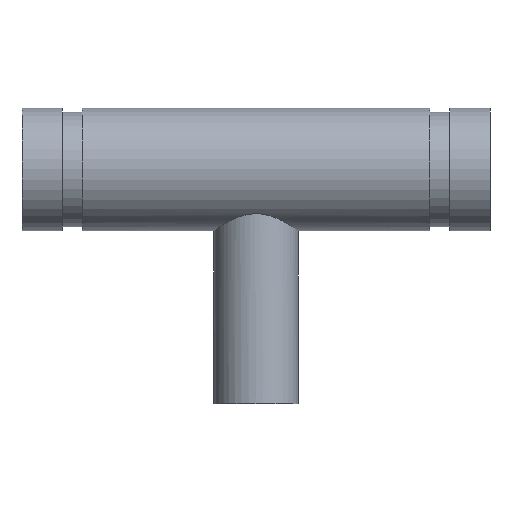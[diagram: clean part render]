
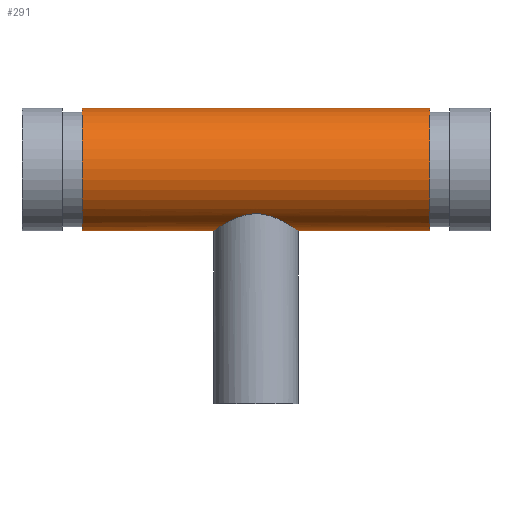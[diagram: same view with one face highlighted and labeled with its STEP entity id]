
A CAD part, top view. The second image highlights one B-rep face of the part: STEP entity #291.
In plain terms, the highlighted cylindrical face has radius 24.13 mm (diameter 48.26 mm), a full revolution.
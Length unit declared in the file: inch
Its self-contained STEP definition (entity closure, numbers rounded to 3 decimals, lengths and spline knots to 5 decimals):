
#45=B_SPLINE_CURVE_WITH_KNOTS('',3,(#511,#512,#513,#514,#515,#516,#517,
#518,#519,#520,#521,#522,#523,#524,#525,#526,#527,#528,#529,#530,#531,#532,
#533,#534,#535,#536,#537,#538,#539,#540,#541,#542,#543,#544,#545,#546,#547,
#548,#549,#550,#551,#552,#553,#554),.UNSPECIFIED.,.F.,.F.,(4,2,2,2,2,2,
2,2,2,2,2,2,2,2,2,2,2,2,2,2,2,4),(0.,0.33127,0.66254,
1.32507,1.6519,1.97872,2.30554,2.63236,
2.95919,3.28601,3.61283,3.93965,4.60219,
4.93346,5.26473,5.596,5.92727,6.5898,
6.91662,7.24345,7.57027,7.89709),
 .UNSPECIFIED.);
#46=B_SPLINE_CURVE_WITH_KNOTS('',3,(#555,#556,#557,#558,#559,#560,#561,
#562,#563,#564,#565,#566,#567,#568,#569,#570),.UNSPECIFIED.,.F.,.F.,(4,
2,2,2,2,2,2,4),(7.89709,8.22391,8.55074,8.87756,
9.20438,9.86692,10.19819,10.52946),
 .UNSPECIFIED.);
#51=LINE('',#508,#59);
#59=VECTOR('',#410,0.95);
#67=CYLINDRICAL_SURFACE('',#338,0.95);
#77=FACE_BOUND('',#108,.T.);
#88=FACE_OUTER_BOUND('',#107,.T.);
#107=EDGE_LOOP('',(#221,#222,#223,#224));
#108=EDGE_LOOP('',(#225,#226));
#121=CIRCLE('',#321,0.95);
#132=CIRCLE('',#337,0.95);
#141=VERTEX_POINT('',#476);
#152=VERTEX_POINT('',#505);
#153=VERTEX_POINT('',#509);
#154=VERTEX_POINT('',#510);
#165=EDGE_CURVE('',#141,#141,#121,.T.);
#178=EDGE_CURVE('',#152,#152,#132,.T.);
#179=EDGE_CURVE('',#152,#141,#51,.T.);
#180=EDGE_CURVE('',#153,#154,#45,.T.);
#181=EDGE_CURVE('',#154,#153,#46,.T.);
#221=ORIENTED_EDGE('',*,*,#178,.T.);
#222=ORIENTED_EDGE('',*,*,#179,.T.);
#223=ORIENTED_EDGE('',*,*,#165,.T.);
#224=ORIENTED_EDGE('',*,*,#179,.F.);
#225=ORIENTED_EDGE('',*,*,#180,.F.);
#226=ORIENTED_EDGE('',*,*,#181,.F.);
#291=ADVANCED_FACE('',(#88,#77),#67,.T.);
#321=AXIS2_PLACEMENT_3D('',#477,#372,#373);
#337=AXIS2_PLACEMENT_3D('',#506,#406,#407);
#338=AXIS2_PLACEMENT_3D('',#507,#408,#409);
#372=DIRECTION('center_axis',(-1.,0.,0.));
#373=DIRECTION('ref_axis',(0.,-1.,0.));
#406=DIRECTION('center_axis',(1.,0.,0.));
#407=DIRECTION('ref_axis',(0.,-1.,0.));
#408=DIRECTION('center_axis',(-1.,0.,0.));
#409=DIRECTION('ref_axis',(0.,-1.,0.));
#410=DIRECTION('',(1.,0.,0.));
#476=CARTESIAN_POINT('',(2.692,0.95,0.));
#477=CARTESIAN_POINT('Origin',(2.692,0.,0.));
#505=CARTESIAN_POINT('',(-2.692,0.95,0.));
#506=CARTESIAN_POINT('Origin',(-2.692,0.,0.));
#507=CARTESIAN_POINT('Origin',(3.63,0.,0.));
#508=CARTESIAN_POINT('',(3.63,0.95,0.));
#509=CARTESIAN_POINT('',(0.,-0.68571,-0.6575));
#510=CARTESIAN_POINT('',(-0.6575,-0.95,0.));
#511=CARTESIAN_POINT('Ctrl Pts',(0.,-0.68571,
-0.6575));
#512=CARTESIAN_POINT('Ctrl Pts',(0.04347,-0.68571,-0.6575));
#513=CARTESIAN_POINT('Ctrl Pts',(0.0875,-0.68997,
-0.65313));
#514=CARTESIAN_POINT('Ctrl Pts',(0.17367,-0.70609,-0.63567));
#515=CARTESIAN_POINT('Ctrl Pts',(0.21583,-0.71789,-0.62259));
#516=CARTESIAN_POINT('Ctrl Pts',(0.33598,-0.7599,-0.57183));
#517=CARTESIAN_POINT('Ctrl Pts',(0.40778,-0.79639,-0.52207));
#518=CARTESIAN_POINT('Ctrl Pts',(0.49311,-0.84428,-0.43673));
#519=CARTESIAN_POINT('Ctrl Pts',(0.51989,-0.8603,-0.40476));
#520=CARTESIAN_POINT('Ctrl Pts',(0.56763,-0.88997,-0.33453));
#521=CARTESIAN_POINT('Ctrl Pts',(0.5886,-0.90359,-0.29627));
#522=CARTESIAN_POINT('Ctrl Pts',(0.62268,-0.92615,-0.21562));
#523=CARTESIAN_POINT('Ctrl Pts',(0.63582,-0.93511,-0.17314));
#524=CARTESIAN_POINT('Ctrl Pts',(0.65324,-0.94703,-0.08677));
#525=CARTESIAN_POINT('Ctrl Pts',(0.6575,-0.95,-0.04289));
#526=CARTESIAN_POINT('Ctrl Pts',(0.6575,-0.95,0.04289));
#527=CARTESIAN_POINT('Ctrl Pts',(0.65324,-0.94703,0.08677));
#528=CARTESIAN_POINT('Ctrl Pts',(0.63582,-0.93511,0.17314));
#529=CARTESIAN_POINT('Ctrl Pts',(0.62268,-0.92615,0.21562));
#530=CARTESIAN_POINT('Ctrl Pts',(0.5886,-0.90359,0.29627));
#531=CARTESIAN_POINT('Ctrl Pts',(0.56763,-0.88997,0.33453));
#532=CARTESIAN_POINT('Ctrl Pts',(0.51989,-0.8603,0.40476));
#533=CARTESIAN_POINT('Ctrl Pts',(0.49311,-0.84428,0.43673));
#534=CARTESIAN_POINT('Ctrl Pts',(0.40778,-0.79639,0.52207));
#535=CARTESIAN_POINT('Ctrl Pts',(0.33598,-0.7599,0.57183));
#536=CARTESIAN_POINT('Ctrl Pts',(0.21583,-0.71789,0.62259));
#537=CARTESIAN_POINT('Ctrl Pts',(0.17367,-0.70609,0.63567));
#538=CARTESIAN_POINT('Ctrl Pts',(0.0875,-0.68997,
0.65313));
#539=CARTESIAN_POINT('Ctrl Pts',(0.04347,-0.68571,0.6575));
#540=CARTESIAN_POINT('Ctrl Pts',(-0.04347,-0.68571,
0.6575));
#541=CARTESIAN_POINT('Ctrl Pts',(-0.0875,-0.68997,
0.65313));
#542=CARTESIAN_POINT('Ctrl Pts',(-0.17367,-0.70609,0.63567));
#543=CARTESIAN_POINT('Ctrl Pts',(-0.21583,-0.71789,
0.62259));
#544=CARTESIAN_POINT('Ctrl Pts',(-0.33598,-0.7599,0.57183));
#545=CARTESIAN_POINT('Ctrl Pts',(-0.40778,-0.79639,
0.52207));
#546=CARTESIAN_POINT('Ctrl Pts',(-0.49311,-0.84428,
0.43673));
#547=CARTESIAN_POINT('Ctrl Pts',(-0.51989,-0.8603,
0.40476));
#548=CARTESIAN_POINT('Ctrl Pts',(-0.56763,-0.88997,0.33453));
#549=CARTESIAN_POINT('Ctrl Pts',(-0.5886,-0.90359,
0.29627));
#550=CARTESIAN_POINT('Ctrl Pts',(-0.62268,-0.92615,
0.21562));
#551=CARTESIAN_POINT('Ctrl Pts',(-0.63582,-0.93511,
0.17314));
#552=CARTESIAN_POINT('Ctrl Pts',(-0.65324,-0.94703,0.08677));
#553=CARTESIAN_POINT('Ctrl Pts',(-0.6575,-0.95,0.04289));
#554=CARTESIAN_POINT('Ctrl Pts',(-0.6575,-0.95,0.));
#555=CARTESIAN_POINT('Ctrl Pts',(-0.6575,-0.95,0.));
#556=CARTESIAN_POINT('Ctrl Pts',(-0.6575,-0.95,-0.04289));
#557=CARTESIAN_POINT('Ctrl Pts',(-0.65324,-0.94703,-0.08677));
#558=CARTESIAN_POINT('Ctrl Pts',(-0.63582,-0.93511,
-0.17314));
#559=CARTESIAN_POINT('Ctrl Pts',(-0.62268,-0.92615,
-0.21562));
#560=CARTESIAN_POINT('Ctrl Pts',(-0.5886,-0.90359,
-0.29627));
#561=CARTESIAN_POINT('Ctrl Pts',(-0.56763,-0.88997,-0.33453));
#562=CARTESIAN_POINT('Ctrl Pts',(-0.51989,-0.8603,
-0.40476));
#563=CARTESIAN_POINT('Ctrl Pts',(-0.49311,-0.84428,
-0.43673));
#564=CARTESIAN_POINT('Ctrl Pts',(-0.40778,-0.79639,
-0.52207));
#565=CARTESIAN_POINT('Ctrl Pts',(-0.33598,-0.7599,-0.57183));
#566=CARTESIAN_POINT('Ctrl Pts',(-0.21583,-0.71789,
-0.62259));
#567=CARTESIAN_POINT('Ctrl Pts',(-0.17367,-0.70609,-0.63567));
#568=CARTESIAN_POINT('Ctrl Pts',(-0.0875,-0.68997,
-0.65313));
#569=CARTESIAN_POINT('Ctrl Pts',(-0.04347,-0.68571,
-0.6575));
#570=CARTESIAN_POINT('Ctrl Pts',(0.,-0.68571,
-0.6575));
